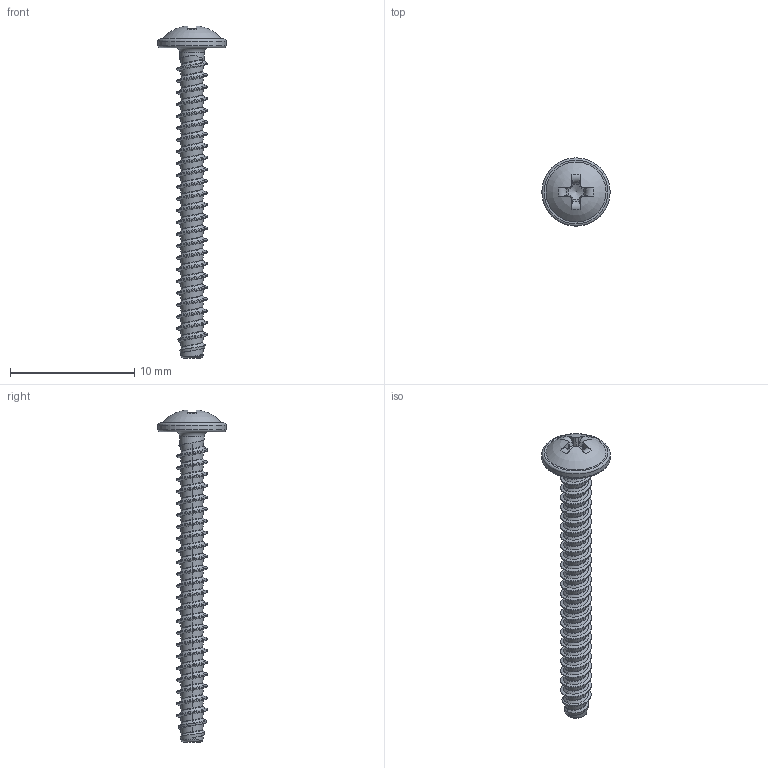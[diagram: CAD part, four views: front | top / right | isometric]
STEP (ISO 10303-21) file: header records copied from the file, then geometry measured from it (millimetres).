
FILE_DESCRIPTION(/* description */ (''),/* implementation_level */ '2;1');
FILE_NAME(/* name */ 'KN6031-STSplus-25x25-H1.step',/* time_stamp */ '2017-09-29T13:02:54+02:00',/* author */ (''),/* organization */ (''),/* preprocessor_version */ 'ST-DEVELOPER v16',/* originating_system */ 'SIEMENS PLM Software NX 10.0',/* authorisation */ '');
FILE_SCHEMA (('AUTOMOTIVE_DESIGN { 1 0 10303 214 3 1 1 1 }'));
Length unit declared in the file: millimetre
Products named in the file (1): KN6031-STSplus-25x25-H1
Bounding box: 5.5 x 5.5 x 26.75 mm (x, y, z)
Volume: 99.2 mm3; surface area: 291.9 mm2
Topology: 1 solids, 1 shells, 143 faces, 369 edges, 229 vertices
Faces by surface type: bspline 104, plane 19, torus 8, cone 7, cylinder 4, sphere 1
Full cylindrical faces by diameter (mm): 1.97 x1, 5.5 x1
Entity records: 10661 total; most frequent: CARTESIAN_POINT 7933, ORIENTED_EDGE 710, EDGE_CURVE 355, DIRECTION 272, VERTEX_POINT 224, B_SPLINE_CURVE_WITH_KNOTS 203, EDGE_LOOP 152, ADVANCED_FACE 143
